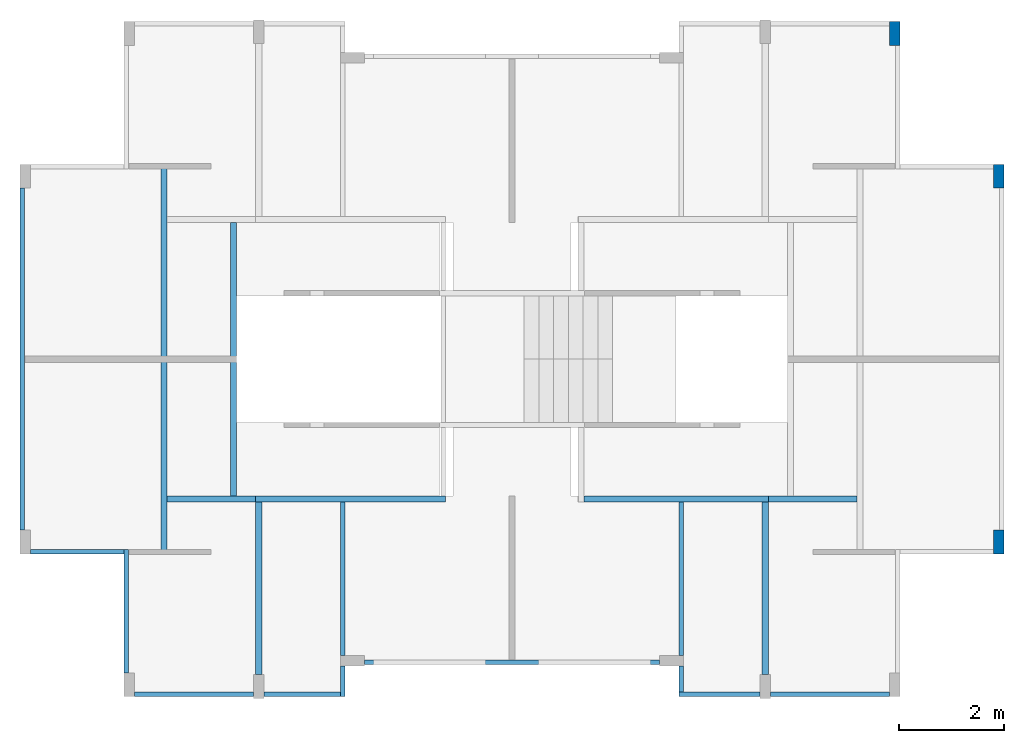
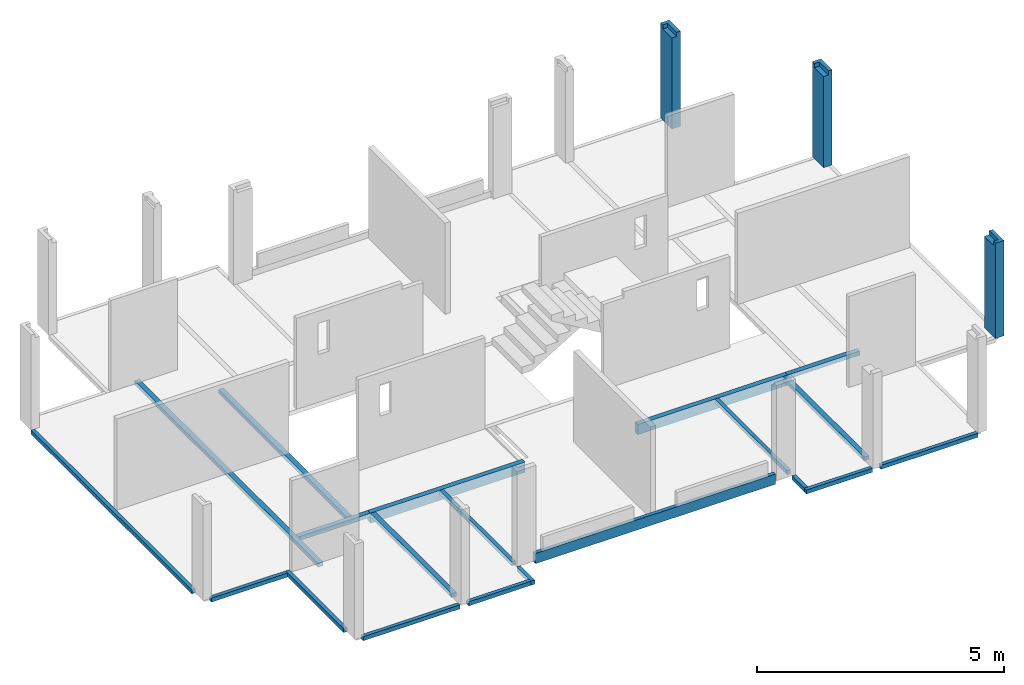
# One storey, part 1 of 6: 16 beams, 3 columns.
"""IFC4 building model written with IfcOpenShell, lengths in metres."""

import ifcopenshell
import ifcopenshell.guid

model = None  # the IFC model being written
_history = None  # IfcOwnerHistory: only IFC2X3 demands one
_inside = {}  # id of a spatial element -> (the spatial element, [elements in it])
_under = {}  # id of a project, library or spatial element -> (it, [spatial elements below it])
_declared = {}  # id of a project -> (the project, [libraries it declares])
_typed = {}  # id of a type object -> (the type object, [elements of that type])
_made_of = {}  # id of a material, layer set ... -> (it, [elements and type objects made of it])


def new_model(schema):
    """Start an empty IFC model of exactly this schema.

    Asked for "IFC4X3", IfcOpenShell would pick the latest addendum, in which some entities
    have other attributes; the version numbers below select the first issue.
    IFC2X3 requires an IfcOwnerHistory on every rooted entity: one is made here for all.
    """
    global model, _history
    if schema == "IFC4X3":
        model = ifcopenshell.file(schema_version=(4, 3, 0, 0))
    else:
        model = ifcopenshell.file(schema=schema)
    _inside.clear()
    _under.clear()
    _declared.clear()
    _typed.clear()
    _made_of.clear()
    _history = None
    if model.schema == "IFC2X3":
        org = make("IfcOrganization", Name="unknown")
        user = make(
            "IfcPersonAndOrganization",
            ThePerson=make("IfcPerson", FamilyName="unknown"),
            TheOrganization=org,
        )
        app = make(
            "IfcApplication",
            ApplicationDeveloper=org,
            Version="unknown",
            ApplicationFullName="unknown",
            ApplicationIdentifier="unknown",
        )
        _history = make(
            "IfcOwnerHistory",
            OwningUser=user,
            OwningApplication=app,
            ChangeAction="ADDED",
            CreationDate=0,
        )
    return model


def make(cls, **values):
    """One entity of the class cls with the attributes given. An attribute that is None is left unset."""
    return model.create_entity(
        cls, **{name: value for name, value in values.items() if value is not None}
    )


def entity(cls, *values):
    """Any entity or typed value of the class cls, its attributes in the order of the schema. None: left unset."""
    e = model.create_entity(cls)
    for i, value in enumerate(values):
        if value is not None:
            e[i] = value
    return e


def rooted(cls, **values):
    """An entity with a GlobalId (a new one), such as an element, a storey or a relation."""
    return make(cls, GlobalId=ifcopenshell.guid.new(), OwnerHistory=_history, **values)


def si_unit(unit_type, name, prefix=None):
    """IfcSIUnit, for example si_unit("LENGTHUNIT", "METRE", prefix="MILLI")."""
    return make("IfcSIUnit", UnitType=unit_type, Prefix=prefix, Name=name)


def converted_unit(unit_type, name, factor, base, dimensions=None, offset=None):
    """IfcConversionBasedUnit, such as the inch: factor (a typed value) times the base unit."""
    return make(
        "IfcConversionBasedUnit"
        if offset is None
        else "IfcConversionBasedUnitWithOffset",
        ConversionOffset=offset,
        Dimensions=None
        if dimensions is None
        else entity("IfcDimensionalExponents", *dimensions),
        UnitType=unit_type,
        Name=name,
        ConversionFactor=make(
            "IfcMeasureWithUnit", ValueComponent=factor, UnitComponent=base
        ),
    )


def derived_unit(unit_type, elements):
    """IfcDerivedUnit: a product of units, each with its exponent."""
    return make(
        "IfcDerivedUnit",
        Elements=[
            make("IfcDerivedUnitElement", Unit=unit, Exponent=power)
            for unit, power in elements
        ],
        UnitType=unit_type,
    )


def assignment(units):
    """IfcUnitAssignment: the units of a project."""
    return None if units is None else make("IfcUnitAssignment", Units=units)


def point(xyz):
    """IfcCartesianPoint."""
    return None if xyz is None else make("IfcCartesianPoint", Coordinates=xyz)


def direction(xyz):
    """IfcDirection."""
    return None if xyz is None else make("IfcDirection", DirectionRatios=xyz)


def frame(location, z_axis=None, x_axis=None):
    """IfcAxis2Placement3D, a coordinate frame: its origin and axes. An axis left out is left unset."""
    return make(
        "IfcAxis2Placement3D",
        Location=point(location),
        Axis=direction(z_axis),
        RefDirection=direction(x_axis),
    )


def origin():
    """The frame at (0, 0, 0) with its axes left unset."""
    return frame((0.0, 0.0, 0.0))


def place(relative_to, where):
    """IfcLocalPlacement: puts the frame where relative to a parent placement (None: the world)."""
    return make(
        "IfcLocalPlacement", PlacementRelTo=relative_to, RelativePlacement=where
    )


def context(
    kind, dimensions, precision=None, world=None, true_north=None, identifier=None
):
    """IfcGeometricRepresentationContext, for example the 3D "Model" context."""
    return make(
        "IfcGeometricRepresentationContext",
        ContextIdentifier=identifier,
        ContextType=kind,
        CoordinateSpaceDimension=dimensions,
        Precision=precision,
        WorldCoordinateSystem=world,
        TrueNorth=true_north,
    )


def subcontext(parent, identifier, kind, view, scale=None):
    """IfcGeometricRepresentationSubContext, for example "Body" below "Model"."""
    return make(
        "IfcGeometricRepresentationSubContext",
        ContextIdentifier=identifier,
        ContextType=kind,
        ParentContext=parent,
        TargetScale=scale,
        TargetView=view,
    )


def project(units=None, contexts=None):
    """IfcProject with its units and contexts."""
    return rooted(
        "IfcProject",
        Name="project",
        RepresentationContexts=contexts,
        UnitsInContext=assignment(units),
    )


def spatial(cls, under=None, at=None, **own):
    """A site, building, storey or space (cls), placed at a placement, below another one or the project."""
    s = rooted(cls, ObjectPlacement=at, **own)
    if under is not None:
        _under.setdefault(under.id(), (under, []))[1].append(s)
    return s


def point_list(points):
    """IfcCartesianPointList2D or 3D."""
    cls = (
        "IfcCartesianPointList2D" if len(points[0]) == 2 else "IfcCartesianPointList3D"
    )
    return make(cls, CoordList=points)


def indexed_curve(points, segments=None, self_intersect=None):
    """IfcIndexedPolyCurve: lines and arcs through numbered points (the first is 1)."""
    return make(
        "IfcIndexedPolyCurve",
        Points=point_list(points),
        Segments=segments,
        SelfIntersect=self_intersect,
    )


def outline(outer, holes=None, kind="AREA"):
    """IfcArbitraryClosedProfileDef: a profile drawn as a closed curve; with holes, ...WithVoids."""
    if holes is None:
        return make("IfcArbitraryClosedProfileDef", ProfileType=kind, OuterCurve=outer)
    return make(
        "IfcArbitraryProfileDefWithVoids",
        ProfileType=kind,
        OuterCurve=outer,
        InnerCurves=holes,
    )


def extrude(swept, where, along, depth):
    """IfcExtrudedAreaSolid: the profile swept, set in the frame where, extruded along a direction by depth."""
    return make(
        "IfcExtrudedAreaSolid",
        SweptArea=swept,
        Position=where,
        ExtrudedDirection=direction(along),
        Depth=depth,
    )


def polygons(points, faces, closed=None, point_numbers=None):
    """IfcPolygonalFaceSet: a face is its outer loop, then its inner loops; points numbered from 1."""
    made = []
    for loops in faces:
        if len(loops) == 1:
            made.append(make("IfcIndexedPolygonalFace", CoordIndex=loops[0]))
        else:
            made.append(
                make(
                    "IfcIndexedPolygonalFaceWithVoids",
                    CoordIndex=loops[0],
                    InnerCoordIndices=loops[1:],
                )
            )
    return make(
        "IfcPolygonalFaceSet",
        Coordinates=point_list(points),
        Closed=closed,
        Faces=made,
        PnIndex=point_numbers,
    )


def shape(context_of_items, identifier, shape_type, items):
    """IfcShapeRepresentation: the items that make up one representation, for example the "Body"."""
    return make(
        "IfcShapeRepresentation",
        ContextOfItems=context_of_items,
        RepresentationIdentifier=identifier,
        RepresentationType=shape_type,
        Items=items,
    )


def source(mapping_origin, context_of_items, identifier, shape_type, items):
    """IfcRepresentationMap: a shape defined once, which mapped items show again and again."""
    return make(
        "IfcRepresentationMap",
        MappingOrigin=mapping_origin,
        MappedRepresentation=shape(context_of_items, identifier, shape_type, items),
    )


def transform(
    local_origin,
    x_axis=None,
    y_axis=None,
    z_axis=None,
    scale=None,
    scale2=None,
    scale3=None,
    uniform=True,
):
    """IfcCartesianTransformationOperator3D, or its non-uniform kind. x_axis, y_axis, z_axis: its Axis1, 2, 3."""
    if uniform:
        return make(
            "IfcCartesianTransformationOperator3D",
            Axis1=direction(x_axis),
            Axis2=direction(y_axis),
            LocalOrigin=point(local_origin),
            Scale=scale,
            Axis3=direction(z_axis),
        )
    return make(
        "IfcCartesianTransformationOperator3DnonUniform",
        Axis1=direction(x_axis),
        Axis2=direction(y_axis),
        LocalOrigin=point(local_origin),
        Scale=scale,
        Axis3=direction(z_axis),
        Scale2=scale2,
        Scale3=scale3,
    )


def mapped(mapping_source, mapping_target):
    """IfcMappedItem: shows the shape of a source again, moved by a transform."""
    return make(
        "IfcMappedItem", MappingSource=mapping_source, MappingTarget=mapping_target
    )


def material(Name=None, Category=None):
    """IfcMaterial."""
    return make("IfcMaterial", Name=Name, Category=Category)


def made_of(thing, what):
    """Note that an element or type object is made of a material, layer set ...; save() writes the relation."""
    if what is not None:
        _made_of.setdefault(what.id(), (what, []))[1].append(thing)
    return thing


def type_object(cls, material=None, **own):
    """A type object (cls), such as IfcWallType, which elements share."""
    return made_of(rooted(cls, **own), material)


def type_shapes(of_type, sources):
    """Give a type object the sources (RepresentationMaps) that its elements show as mapped items."""
    of_type.RepresentationMaps = sources


def element(
    cls,
    number,
    at=None,
    inside=None,
    cuts=None,
    type_object=None,
    material=None,
    context=None,
    identifier="Body",
    shape_type=None,
    held_by="IfcProductDefinitionShape",
    body=None,
    shapes=None,
    **own,
):
    """One element of the class cls, such as IfcWall. Its Tag is "e" and its number.

    at: its placement. inside: the storey or other place that contains it. cuts: it is an
    opening in that element (IfcRelVoidsElement). A single representation is given by context,
    identifier, shape_type and body (its items); several are given by shapes. held_by: the class
    of the entity that holds the representations. save() writes the other relations.
    """
    e = rooted(cls, Tag="e%d" % number, ObjectPlacement=at, **own)
    if body is not None:
        shapes = [shape(context, identifier, shape_type, body)]
    if shapes is not None:
        e.Representation = make(held_by, Representations=shapes)
    if inside is not None:
        _inside.setdefault(inside.id(), (inside, []))[1].append(e)
    if cuts is not None:
        rooted(
            "IfcRelVoidsElement", RelatingBuildingElement=cuts, RelatedOpeningElement=e
        )
    if type_object is not None:
        _typed.setdefault(type_object.id(), (type_object, []))[1].append(e)
    return made_of(e, material)


def aggregate(whole, parts):
    """IfcRelAggregates: a whole, such as a stair, and the parts it consists of."""
    return rooted("IfcRelAggregates", RelatingObject=whole, RelatedObjects=parts)


def save(model, path):
    """Write the relations noted so far, then the file.

    IfcRelAggregates (storeys below a building ...), IfcRelContainedInSpatialStructure (elements
    in a storey), IfcRelDefinesByType, IfcRelAssociatesMaterial and IfcRelDeclares: one each for
    every whole, place, type object, material and project.
    """
    for whole, parts in _under.values():
        aggregate(whole, parts)
    for where, things in _inside.values():
        rooted(
            "IfcRelContainedInSpatialStructure",
            RelatedElements=things,
            RelatingStructure=where,
        )
    for kind, things in _typed.values():
        rooted("IfcRelDefinesByType", RelatedObjects=things, RelatingType=kind)
    for what, things in _made_of.values():
        rooted("IfcRelAssociatesMaterial", RelatedObjects=things, RelatingMaterial=what)
    for by, libraries in _declared.values():
        rooted("IfcRelDeclares", RelatingContext=by, RelatedDefinitions=libraries)
    model.write(path)


model = new_model("IFC4")

# Units and contexts
model_context = context("Model", 3, precision=1e-05, world=origin(), true_north=direction((6.123031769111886e-17, 1.0)))
body_context = subcontext(model_context, "Body", "Model", "MODEL_VIEW")
ifc_project = project(units=[si_unit("LENGTHUNIT", "METRE"), si_unit("AREAUNIT", "SQUARE_METRE"), si_unit("VOLUMEUNIT", "CUBIC_METRE"), converted_unit("PLANEANGLEUNIT", "DEGREE", entity("IfcRatioMeasure", 0.017453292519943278), si_unit("PLANEANGLEUNIT", "RADIAN"), dimensions=[0, 0, 0, 0, 0, 0, 0]), si_unit("MASSUNIT", "GRAM", prefix="KILO"), derived_unit("MASSDENSITYUNIT", [(si_unit("MASSUNIT", "GRAM", prefix="KILO"), 1), (si_unit("LENGTHUNIT", "METRE"), -3)]), derived_unit("IONCONCENTRATIONUNIT", [(si_unit("MASSUNIT", "GRAM", prefix="KILO"), 1), (si_unit("LENGTHUNIT", "METRE"), -3)]), derived_unit("MOMENTOFINERTIAUNIT", [(si_unit("LENGTHUNIT", "METRE"), 4)]), si_unit("TIMEUNIT", "SECOND"), si_unit("FREQUENCYUNIT", "HERTZ"), si_unit("THERMODYNAMICTEMPERATUREUNIT", "DEGREE_CELSIUS"), derived_unit("THERMALTRANSMITTANCEUNIT", [(si_unit("MASSUNIT", "GRAM", prefix="KILO"), 1), (si_unit("THERMODYNAMICTEMPERATUREUNIT", "KELVIN"), -1), (si_unit("TIMEUNIT", "SECOND"), -3)]), derived_unit("THERMALCONDUCTANCEUNIT", [(si_unit("MASSUNIT", "GRAM", prefix="KILO"), 1), (si_unit("THERMODYNAMICTEMPERATUREUNIT", "KELVIN"), -1), (si_unit("TIMEUNIT", "SECOND"), -3), (si_unit("LENGTHUNIT", "METRE"), 1)]), derived_unit("VOLUMETRICFLOWRATEUNIT", [(si_unit("LENGTHUNIT", "METRE"), 3), (si_unit("TIMEUNIT", "SECOND"), -1)]), derived_unit("MASSFLOWRATEUNIT", [(si_unit("MASSUNIT", "GRAM", prefix="KILO"), 1), (si_unit("TIMEUNIT", "SECOND"), -1)]), derived_unit("ROTATIONALFREQUENCYUNIT", [(si_unit("TIMEUNIT", "SECOND"), -1)]), si_unit("ELECTRICCURRENTUNIT", "AMPERE"), si_unit("ELECTRICVOLTAGEUNIT", "VOLT"), si_unit("POWERUNIT", "WATT"), si_unit("FORCEUNIT", "NEWTON", prefix="KILO"), si_unit("ILLUMINANCEUNIT", "LUX"), si_unit("LUMINOUSFLUXUNIT", "LUMEN"), si_unit("LUMINOUSINTENSITYUNIT", "CANDELA"), derived_unit("USERDEFINED", [(si_unit("MASSUNIT", "GRAM", prefix="KILO"), -1), (si_unit("LENGTHUNIT", "METRE"), -2), (si_unit("TIMEUNIT", "SECOND"), 3), (si_unit("LUMINOUSFLUXUNIT", "LUMEN"), 1)]), derived_unit("USERDEFINED", [(si_unit("MASSUNIT", "GRAM", prefix="KILO"), 1), (si_unit("TIMEUNIT", "SECOND"), -3), (si_unit("LENGTHUNIT", "METRE"), 3), (si_unit("ELECTRICCURRENTUNIT", "AMPERE"), -2)]), derived_unit("SOUNDPOWERUNIT", [(si_unit("MASSUNIT", "GRAM", prefix="KILO"), 1), (si_unit("TIMEUNIT", "SECOND"), -3), (si_unit("LENGTHUNIT", "METRE"), 2)]), derived_unit("SOUNDPRESSUREUNIT", [(si_unit("MASSUNIT", "GRAM", prefix="KILO"), 1), (si_unit("LENGTHUNIT", "METRE"), -1), (si_unit("TIMEUNIT", "SECOND"), -2)]), derived_unit("LINEARVELOCITYUNIT", [(si_unit("LENGTHUNIT", "METRE"), 1), (si_unit("TIMEUNIT", "SECOND"), -1)]), si_unit("PRESSUREUNIT", "PASCAL"), derived_unit("USERDEFINED", [(si_unit("MASSUNIT", "GRAM", prefix="KILO"), 1), (si_unit("LENGTHUNIT", "METRE"), -2), (si_unit("TIMEUNIT", "SECOND"), -2)]), derived_unit("LINEARFORCEUNIT", [(si_unit("MASSUNIT", "GRAM", prefix="KILO"), 1), (si_unit("TIMEUNIT", "SECOND"), -2)]), derived_unit("PLANARFORCEUNIT", [(si_unit("MASSUNIT", "GRAM", prefix="KILO"), 1), (si_unit("LENGTHUNIT", "METRE"), -1), (si_unit("TIMEUNIT", "SECOND"), -2)]), derived_unit("SPECIFICHEATCAPACITYUNIT", [(si_unit("THERMODYNAMICTEMPERATUREUNIT", "KELVIN"), -1), (si_unit("LENGTHUNIT", "METRE"), 2), (si_unit("TIMEUNIT", "SECOND"), -2)]), derived_unit("HEATINGVALUEUNIT", [(si_unit("LENGTHUNIT", "METRE"), 2), (si_unit("TIMEUNIT", "SECOND"), -2)]), derived_unit("VAPORPERMEABILITYUNIT", [(si_unit("LENGTHUNIT", "METRE"), -1), (si_unit("TIMEUNIT", "SECOND"), 1)]), derived_unit("DYNAMICVISCOSITYUNIT", [(si_unit("MASSUNIT", "GRAM", prefix="KILO"), 1), (si_unit("TIMEUNIT", "SECOND"), -1), (si_unit("LENGTHUNIT", "METRE"), -1)]), derived_unit("THERMALEXPANSIONCOEFFICIENTUNIT", [(si_unit("THERMODYNAMICTEMPERATUREUNIT", "KELVIN"), -1)]), derived_unit("MODULUSOFELASTICITYUNIT", [(si_unit("MASSUNIT", "GRAM", prefix="KILO"), 1), (si_unit("LENGTHUNIT", "METRE"), -1), (si_unit("TIMEUNIT", "SECOND"), -2)]), derived_unit("ISOTHERMALMOISTURECAPACITYUNIT", [(si_unit("LENGTHUNIT", "METRE"), 3), (si_unit("MASSUNIT", "GRAM", prefix="KILO"), -1)]), derived_unit("MOISTUREDIFFUSIVITYUNIT", [(si_unit("TIMEUNIT", "SECOND"), -1), (si_unit("LENGTHUNIT", "METRE"), 2)])], contexts=[model_context])

# Site, building, storey
site_placement = place(None, origin())
site = spatial("IfcSite", under=ifc_project, at=site_placement, Name="Default", CompositionType="ELEMENT")
building_placement = place(site_placement, origin())
building = spatial("IfcBuilding", under=site, at=building_placement, Name="Las nubes", CompositionType="ELEMENT")
storey_placement = place(building_placement, frame((0.0, 0.0, 9.400000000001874)))
storey = spatial("IfcBuildingStorey", under=building, at=storey_placement, Name="PISO 5", CompositionType="ELEMENT", Elevation=9.400000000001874)

# Columns
ifc_material_1 = material(Name="Concrete, Cast-in-Place gray", Category="Materials")
column_type_1 = type_object("IfcColumnType", Name="M_Concrete-Rectangular-Column:300 x 450mm", PredefinedType="COLUMN", material=ifc_material_1)
shared_shape_1 = source(origin(), body_context, "Body", "Tessellation", [
    polygons([(-2.1657342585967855e-15, 5.414335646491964e-16, 1.0828671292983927e-15), (-2.1657342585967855e-15, 0.45000000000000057, 1.0828671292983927e-15), (0.19999999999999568, 0.45000000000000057, 1.0828671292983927e-15), (0.19999999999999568, 5.414335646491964e-16, 1.0828671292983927e-15), (-2.1657342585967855e-15, 5.414335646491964e-16, 2.250000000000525), (-2.1657342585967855e-15, 0.36499999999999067, 2.250000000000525), (-2.1657342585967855e-15, 0.36499999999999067, 2.350000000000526), (-2.1657342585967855e-15, 0.45000000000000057, 2.350000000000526), (0.19999999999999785, 5.414335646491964e-16, 2.250000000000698), (0.19999999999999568, 5.414335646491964e-16, 2.350000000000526), (0.11499999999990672, 5.414335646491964e-16, 2.350000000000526), (0.11499999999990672, 5.414335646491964e-16, 2.250000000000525), (0.19999999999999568, 0.45000000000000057, 2.350000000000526), (0.11499999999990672, 0.36499999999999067, 2.350000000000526), (0.11499999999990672, 0.36499999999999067, 2.250000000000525)], [[[1, 2, 3, 4]], [[2, 1, 5, 6, 7, 8]], [[1, 4, 9, 10, 11, 12, 5]], [[4, 3, 13, 10, 9]], [[3, 2, 8, 13]], [[10, 13, 8, 7, 14, 11]], [[12, 15, 6, 5]], [[14, 15, 12, 11]], [[15, 14, 7, 6]]], closed=True),
])
type_shapes(column_type_1, [shared_shape_1])
column_1_placement = place(storey_placement, frame((18.472500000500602, -3.175000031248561, 0.0)))
element("IfcColumn", 1, at=column_1_placement, inside=storey, type_object=column_type_1, material=ifc_material_1, Name="M_Concrete-Rectangular-Column:300 x 450mm", ObjectType="M_Concrete-Rectangular-Column:300 x 450mm", PredefinedType="COLUMN", context=body_context, shape_type="MappedRepresentation", body=[
    mapped(shared_shape_1, transform((0.0, 0.0, 0.0), scale=1.0)),
])
column_type_2 = type_object("IfcColumnType", Name="M_Concrete-Rectangular-Column:300 x 450mm", PredefinedType="COLUMN", material=ifc_material_1)
shared_shape_2 = source(origin(), body_context, "Body", "Tessellation", [
    polygons([(0.0, 0.0, 1.0828671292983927e-15), (0.0, 0.45, 1.0828671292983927e-15), (0.2, 0.45, 1.0828671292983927e-15), (0.2, 0.0, 1.0828671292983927e-15), (0.0, 0.0, 2.250000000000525), (0.0, 0.3649999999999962, 2.250000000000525), (0.0, 0.36499999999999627, 2.350000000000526), (0.0, 0.45, 2.350000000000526), (0.2, 0.0, 2.250000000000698), (0.2, 0.0, 2.350000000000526), (0.11499999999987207, 0.0, 2.350000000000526), (0.11499999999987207, 0.0, 2.250000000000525), (0.2, 0.45, 2.350000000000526), (0.11499999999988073, 0.3649999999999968, 2.350000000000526), (0.11499999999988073, 0.3649999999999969, 2.250000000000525)], [[[1, 2, 3, 4]], [[2, 1, 5, 6, 7, 8]], [[1, 4, 9, 10, 11, 12, 5]], [[4, 3, 13, 10, 9]], [[3, 2, 8, 13]], [[10, 13, 8, 7, 14, 11]], [[15, 6, 5, 12]], [[15, 14, 7, 6]], [[14, 15, 12, 11]]], closed=True),
])
type_shapes(column_type_2, [shared_shape_2])
column_2_placement = place(storey_placement, frame((16.497500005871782, -0.46000002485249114, 0.0)))
element("IfcColumn", 2, at=column_2_placement, inside=storey, type_object=column_type_2, material=ifc_material_1, Name="M_Concrete-Rectangular-Column:300 x 450mm", ObjectType="M_Concrete-Rectangular-Column:300 x 450mm", PredefinedType="COLUMN", context=body_context, shape_type="MappedRepresentation", body=[
    mapped(shared_shape_2, transform((0.0, 0.0, 0.0), scale=1.0)),
])
column_type_3 = type_object("IfcColumnType", Name="M_Concrete-Rectangular-Column:300 x 450mm", PredefinedType="COLUMN", material=ifc_material_1)
shared_shape_3 = source(origin(), body_context, "Body", "Tessellation", [
    polygons([(2.1657342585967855e-15, 2.1657342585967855e-15, 1.0828671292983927e-15), (6.497202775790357e-15, 0.4500000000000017, 1.0828671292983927e-15), (0.20000000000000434, 0.45000000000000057, 1.0828671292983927e-15), (0.20000000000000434, 0.0, 1.0828671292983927e-15), (2.1657342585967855e-15, 2.1657342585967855e-15, 2.350000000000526), (2.1657342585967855e-15, 0.08500000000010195, 2.350000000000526), (2.1657342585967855e-15, 0.08500000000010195, 2.250000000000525), (6.497202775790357e-15, 0.4500000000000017, 2.250000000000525), (0.11499999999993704, 0.4500000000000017, 2.250000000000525), (0.11499999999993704, 0.4500000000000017, 2.350000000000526), (0.2000000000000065, 0.4499999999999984, 2.350000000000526), (0.2000000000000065, 0.45000000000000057, 2.250000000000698), (0.20000000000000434, 0.0, 2.350000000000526), (0.11499999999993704, 0.08500000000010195, 2.350000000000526), (0.11499999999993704, 0.08500000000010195, 2.250000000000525)], [[[1, 2, 3, 4]], [[2, 1, 5, 6, 7, 8]], [[3, 2, 8, 9, 10, 11, 12]], [[4, 3, 12, 11, 13]], [[1, 4, 13, 5]], [[13, 11, 10, 14, 6, 5]], [[7, 15, 9, 8]], [[14, 15, 7, 6]], [[15, 14, 10, 9]]], closed=True),
])
type_shapes(column_type_3, [shared_shape_3])
column_3_placement = place(storey_placement, frame((18.472500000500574, -10.125000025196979, 0.0)))
element("IfcColumn", 3, at=column_3_placement, inside=storey, type_object=column_type_3, material=ifc_material_1, Name="M_Concrete-Rectangular-Column:300 x 450mm", ObjectType="M_Concrete-Rectangular-Column:300 x 450mm", PredefinedType="COLUMN", context=body_context, shape_type="MappedRepresentation", body=[
    mapped(shared_shape_3, transform((0.0, 0.0, 0.0), scale=1.0)),
])

# Beams
ifc_material_2 = material(Name="Concrete, Cast In Situ", Category="Materials")
beam_type_1 = type_object("IfcBeamType", Name="M_Concrete-Rectangular Beam:(0.085x0.25)", PredefinedType="BEAM", material=ifc_material_2)
shared_shape_4 = source(origin(), body_context, "Body", "SweptSolid", [
    extrude(outline(indexed_curve([(-0.12500000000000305, -0.04249999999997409), (0.12499999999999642, -0.04250000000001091), (0.12500000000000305, 0.04249999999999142), (-0.12499999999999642, 0.042500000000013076), (-0.12500000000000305, -0.04249999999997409)], self_intersect=False)), frame((6.517499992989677, -12.18250002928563, 9.425000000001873), z_axis=(1.0, 0.0, 0.0), x_axis=(0.0, 0.0, -1.0)), (0.0, 0.0, 1.0), 5.6100000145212),
])
type_shapes(beam_type_1, [shared_shape_4])
beam_1_placement = place(storey_placement, frame((0.0, 0.0, -9.400000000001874)))
element("IfcBeam", 4, at=beam_1_placement, inside=storey, type_object=beam_type_1, material=ifc_material_2, Name="M_Concrete-Rectangular Beam:(0.085x0.25)", ObjectType="M_Concrete-Rectangular Beam:(0.085x0.25)", PredefinedType="BEAM", context=body_context, shape_type="MappedRepresentation", body=[
    mapped(shared_shape_4, transform((0.0, 0.0, 0.0), scale=1.0)),
])
beam_type_2 = type_object("IfcBeamType", Name="M_Concrete-Rectangular Beam:(0.085x0.10)", PredefinedType="BEAM", material=ifc_material_2)
shared_shape_5 = source(origin(), body_context, "Body", "SweptSolid", [
    extrude(outline(indexed_curve([(-0.04250000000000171, -0.050000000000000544), (0.04250000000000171, -0.050000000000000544), (0.04250000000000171, 0.04999999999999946), (-0.04250000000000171, 0.04999999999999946), (-0.04250000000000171, -0.050000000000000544)], self_intersect=False)), frame((1.9899999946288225, -12.390000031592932, 9.350000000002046), z_axis=(0.0, 1.0, 0.0), x_axis=(-1.0, 0.0, 0.0)), (0.0, 0.0, 1.0), 2.3500051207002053),
])
type_shapes(beam_type_2, [shared_shape_5])
beam_2_placement = place(storey_placement, frame((0.0, 0.0, -9.400000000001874)))
element("IfcBeam", 5, at=beam_2_placement, inside=storey, type_object=beam_type_2, material=ifc_material_2, Name="M_Concrete-Rectangular Beam:(0.085x0.10)", ObjectType="M_Concrete-Rectangular Beam:(0.085x0.10)", PredefinedType="BEAM", context=body_context, shape_type="MappedRepresentation", body=[
    mapped(shared_shape_5, transform((0.0, 0.0, 0.0), scale=1.0)),
])
beam_type_3 = type_object("IfcBeamType", Name="M_Concrete-Rectangular Beam:(0.085x0.10)", PredefinedType="BEAM", material=ifc_material_2)
shared_shape_6 = source(origin(), body_context, "Body", "SweptSolid", [
    extrude(outline(indexed_curve([(-0.050000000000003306, -0.04249999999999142), (0.04999999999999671, -0.042500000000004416), (0.05000000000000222, 0.04249999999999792), (-0.04999999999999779, 0.042500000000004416), (-0.050000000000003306, -0.04249999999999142)], self_intersect=False)), frame((1.9474999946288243, -10.082494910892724, 9.350000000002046), z_axis=(-1.0, 0.0, 0.0), x_axis=(0.0, 0.0, -1.0)), (0.0, 0.0, 1.0), 1.7749999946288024),
])
type_shapes(beam_type_3, [shared_shape_6])
beam_3_placement = place(storey_placement, frame((0.0, 0.0, -9.400000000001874)))
element("IfcBeam", 6, at=beam_3_placement, inside=storey, type_object=beam_type_3, material=ifc_material_2, Name="M_Concrete-Rectangular Beam:(0.085x0.10)", ObjectType="M_Concrete-Rectangular Beam:(0.085x0.10)", PredefinedType="BEAM", context=body_context, shape_type="MappedRepresentation", body=[
    mapped(shared_shape_6, transform((0.0, 0.0, 0.0), scale=1.0)),
])
beam_type_4 = type_object("IfcBeamType", Name="M_Concrete-Rectangular Beam:(0.085x0.10)", PredefinedType="BEAM", material=ifc_material_2)
shared_shape_7 = source(origin(), body_context, "Body", "SweptSolid", [
    extrude(outline(indexed_curve([(-0.04250000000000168, -0.050000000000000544), (0.04250000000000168, -0.050000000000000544), (0.0425000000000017, 0.04999999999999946), (-0.04250000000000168, 0.04999999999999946), (-0.04250000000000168, -0.050000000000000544)], self_intersect=False)), frame((0.01500000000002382, -9.674994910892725, 9.350000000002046), z_axis=(0.0, 1.0, 0.0), x_axis=(-1.0, 0.0, 0.0)), (0.0, 0.0, 1.0), 6.499994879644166),
])
type_shapes(beam_type_4, [shared_shape_7])
beam_4_placement = place(storey_placement, frame((0.0, 0.0, -9.400000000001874)))
element("IfcBeam", 7, at=beam_4_placement, inside=storey, type_object=beam_type_4, material=ifc_material_2, Name="M_Concrete-Rectangular Beam:(0.085x0.10)", ObjectType="M_Concrete-Rectangular Beam:(0.085x0.10)", PredefinedType="BEAM", context=body_context, shape_type="MappedRepresentation", body=[
    mapped(shared_shape_7, transform((0.0, 0.0, 0.0), scale=1.0)),
])
beam_type_5 = type_object("IfcBeamType", Name="M_Concrete-Rectangular Beam:(0.085x0.10)", PredefinedType="BEAM", material=ifc_material_2)
shared_shape_8 = source(origin(), body_context, "Body", "SweptSolid", [
    extrude(outline(indexed_curve([(-0.050000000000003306, -0.04249999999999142), (0.04999999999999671, -0.042500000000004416), (0.05000000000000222, 0.04249999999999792), (-0.04999999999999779, 0.042500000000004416), (-0.050000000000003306, -0.04249999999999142)], self_intersect=False)), frame((14.235000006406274, -12.797498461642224, 9.350000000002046), z_axis=(1.0, 0.0, 0.0), x_axis=(0.0, 0.0, -1.0)), (0.0, 0.0, 1.0), 2.2624999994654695),
    extrude(outline(indexed_curve([(-0.05000000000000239, -0.04249999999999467), (0.049999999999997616, -0.042500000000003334), (0.05000000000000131, 0.042499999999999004), (-0.0499999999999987, 0.042500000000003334), (-0.05000000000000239, -0.04249999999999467)], self_intersect=False)), frame((12.49250000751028, -12.797498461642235, 9.350000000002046), z_axis=(1.0, 0.0, 0.0), x_axis=(0.0, 0.0, -1.0)), (0.0, 0.0, 1.0), 1.5424999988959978),
])
type_shapes(beam_type_5, [shared_shape_8])
beam_5_placement = place(storey_placement, frame((0.0, 0.0, -9.400000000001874)))
element("IfcBeam", 8, at=beam_5_placement, inside=storey, type_object=beam_type_5, material=ifc_material_2, Name="M_Concrete-Rectangular Beam:(0.085x0.10)", ObjectType="M_Concrete-Rectangular Beam:(0.085x0.10)", PredefinedType="BEAM", context=body_context, shape_type="MappedRepresentation", body=[
    mapped(shared_shape_8, transform((0.0, 0.0, 0.0), scale=1.0)),
])
beam_type_6 = type_object("IfcBeamType", Name="M_Concrete-Rectangular Beam:(0.115x0.25)", PredefinedType="BEAM", material=ifc_material_2)
shared_shape_9 = source(origin(), body_context, "Body", "SweptSolid", [
    extrude(outline(indexed_curve([(-0.12500000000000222, -0.05749999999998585), (0.12499999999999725, -0.057500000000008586), (0.12500000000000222, 0.05749999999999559), (-0.12499999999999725, 0.05750000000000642), (-0.12500000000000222, -0.05749999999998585)], self_intersect=False)), frame((8.062500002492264, -9.082500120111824, 9.275000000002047), z_axis=(-1.0, 0.0, 0.0), x_axis=(0.0, 0.0, -1.0)), (0.0, 0.0, 1.0), 3.610000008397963),
])
type_shapes(beam_type_6, [shared_shape_9])
beam_6_placement = place(storey_placement, frame((0.0, 0.0, -9.400000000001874)))
element("IfcBeam", 9, at=beam_6_placement, inside=storey, type_object=beam_type_6, material=ifc_material_2, Name="M_Concrete-Rectangular Beam:(0.115x0.25)", ObjectType="M_Concrete-Rectangular Beam:(0.115x0.25)", PredefinedType="BEAM", context=body_context, shape_type="MappedRepresentation", body=[
    mapped(shared_shape_9, transform((0.0, 0.0, 0.0), scale=1.0)),
])
beam_type_7 = type_object("IfcBeamType", Name="M_Concrete-Rectangular Beam:(0.115x0.25)", PredefinedType="BEAM", material=ifc_material_2)
shared_shape_10 = source(origin(), body_context, "Body", "SweptSolid", [
    extrude(outline(indexed_curve([(-0.12500000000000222, -0.057499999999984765), (0.12499999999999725, -0.05750000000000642), (0.12500000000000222, 0.05749999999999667), (-0.12499999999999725, 0.0575000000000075), (-0.12500000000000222, -0.057499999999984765)], self_intersect=False)), frame((10.692499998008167, -9.082500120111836, 9.275000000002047), z_axis=(1.0, 0.0, 0.0), x_axis=(0.0, 0.0, -1.0)), (0.0, 0.0, 1.0), 3.5000000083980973),
])
type_shapes(beam_type_7, [shared_shape_10])
beam_7_placement = place(storey_placement, frame((0.0, 0.0, -9.400000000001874)))
element("IfcBeam", 10, at=beam_7_placement, inside=storey, type_object=beam_type_7, material=ifc_material_2, Name="M_Concrete-Rectangular Beam:(0.115x0.25)", ObjectType="M_Concrete-Rectangular Beam:(0.115x0.25)", PredefinedType="BEAM", context=body_context, shape_type="MappedRepresentation", body=[
    mapped(shared_shape_10, transform((0.0, 0.0, 0.0), scale=1.0)),
])
beam_type_8 = type_object("IfcBeamType", Name="M_Concrete-Rectangular Beam:(0.115x0.10)", PredefinedType="BEAM", material=ifc_material_2)
shared_shape_11 = source(origin(), body_context, "Body", "SweptSolid", [
    extrude(outline(indexed_curve([(-0.05750000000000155, -0.050000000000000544), (0.05750000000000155, -0.050000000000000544), (0.05750000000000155, 0.04999999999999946), (-0.05750000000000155, 0.04999999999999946), (-0.05750000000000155, -0.050000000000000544)], self_intersect=False)), frame((2.710001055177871, -10.140000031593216, 9.350000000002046), z_axis=(0.0, 1.0, 0.0), x_axis=(-1.0, 0.0, 0.0)), (0.0, 0.0, 1.0), 7.430000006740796),
])
type_shapes(beam_type_8, [shared_shape_11])
beam_8_placement = place(storey_placement, frame((0.0, 0.0, -9.400000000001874)))
element("IfcBeam", 11, at=beam_8_placement, inside=storey, type_object=beam_type_8, material=ifc_material_2, Name="M_Concrete-Rectangular Beam:(0.115x0.10)", ObjectType="M_Concrete-Rectangular Beam:(0.115x0.10)", PredefinedType="BEAM", context=body_context, shape_type="MappedRepresentation", body=[
    mapped(shared_shape_11, transform((0.0, 0.0, 0.0), scale=1.0)),
])
beam_type_9 = type_object("IfcBeamType", Name="M_Concrete-Rectangular Beam:(0.115x0.10)", PredefinedType="BEAM", material=ifc_material_2)
shared_shape_12 = source(origin(), body_context, "Body", "SweptSolid", [
    extrude(outline(indexed_curve([(-0.05750000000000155, -0.050000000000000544), (0.05750000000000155, -0.050000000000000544), (0.05750000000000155, 0.04999999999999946), (-0.05750000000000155, 0.04999999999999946), (-0.05750000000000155, -0.050000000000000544)], self_intersect=False)), frame((4.509999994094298, -12.42000003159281, 9.350000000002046), z_axis=(0.0, 1.0, 0.0), x_axis=(-1.0, 0.0, 0.0)), (0.0, 0.0, 1.0), 3.2799999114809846),
])
type_shapes(beam_type_9, [shared_shape_12])
beam_9_placement = place(storey_placement, frame((0.0, 0.0, -9.400000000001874)))
element("IfcBeam", 12, at=beam_9_placement, inside=storey, type_object=beam_type_9, material=ifc_material_2, Name="M_Concrete-Rectangular Beam:(0.115x0.10)", ObjectType="M_Concrete-Rectangular Beam:(0.115x0.10)", PredefinedType="BEAM", context=body_context, shape_type="MappedRepresentation", body=[
    mapped(shared_shape_12, transform((0.0, 0.0, 0.0), scale=1.0)),
])
beam_type_10 = type_object("IfcBeamType", Name="M_Concrete-Rectangular Beam:(0.115x0.10)", PredefinedType="BEAM", material=ifc_material_2)
shared_shape_13 = source(origin(), body_context, "Body", "SweptSolid", [
    extrude(outline(indexed_curve([(-0.05750000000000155, -0.050000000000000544), (0.05750000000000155, -0.050000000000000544), (0.05750000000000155, 0.04999999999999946), (-0.05750000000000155, 0.04999999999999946), (-0.05750000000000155, -0.050000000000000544)], self_intersect=False)), frame((4.029999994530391, -9.025000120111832, 9.350000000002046), z_axis=(0.0, 1.0, 0.0), x_axis=(-1.0, 0.0, 0.0)), (0.0, 0.0, 1.0), 5.200000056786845),
])
type_shapes(beam_type_10, [shared_shape_13])
beam_10_placement = place(storey_placement, frame((0.0, 0.0, -9.400000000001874)))
element("IfcBeam", 13, at=beam_10_placement, inside=storey, type_object=beam_type_10, material=ifc_material_2, Name="M_Concrete-Rectangular Beam:(0.115x0.10)", ObjectType="M_Concrete-Rectangular Beam:(0.115x0.10)", PredefinedType="BEAM", context=body_context, shape_type="MappedRepresentation", body=[
    mapped(shared_shape_13, transform((0.0, 0.0, 0.0), scale=1.0)),
])
beam_type_11 = type_object("IfcBeamType", Name="M_Concrete-Rectangular Beam:(0.115x0.10)", PredefinedType="BEAM", material=ifc_material_2)
shared_shape_14 = source(origin(), body_context, "Body", "SweptSolid", [
    extrude(outline(indexed_curve([(-0.05000000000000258, -0.057499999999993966), (0.049999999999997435, -0.05750000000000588), (0.05000000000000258, 0.0574999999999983), (-0.049999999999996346, 0.057500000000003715), (-0.05000000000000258, -0.057499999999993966)], self_intersect=False)), frame((4.4524999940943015, -9.082499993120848, 9.350000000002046), z_axis=(-1.0, 0.0, 0.0), x_axis=(0.0, 0.0, -1.0)), (0.0, 0.0, 1.0), 1.6849989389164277),
])
type_shapes(beam_type_11, [shared_shape_14])
beam_11_placement = place(storey_placement, frame((0.0, 0.0, -9.400000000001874)))
element("IfcBeam", 14, at=beam_11_placement, inside=storey, type_object=beam_type_11, material=ifc_material_2, Name="M_Concrete-Rectangular Beam:(0.115x0.10)", ObjectType="M_Concrete-Rectangular Beam:(0.115x0.10)", PredefinedType="BEAM", context=body_context, shape_type="MappedRepresentation", body=[
    mapped(shared_shape_14, transform((0.0, 0.0, 0.0), scale=1.0)),
])
beam_type_12 = type_object("IfcBeamType", Name="M_Concrete-Rectangular Beam:(0.115x0.10)", PredefinedType="BEAM", material=ifc_material_2)
shared_shape_15 = source(origin(), body_context, "Body", "SweptSolid", [
    extrude(outline(indexed_curve([(-0.05000000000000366, -0.057499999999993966), (0.049999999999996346, -0.0575000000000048), (0.05000000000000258, 0.0574999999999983), (-0.049999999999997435, 0.057500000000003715), (-0.05000000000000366, -0.057499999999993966)], self_intersect=False)), frame((14.192500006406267, -9.082499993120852, 9.350000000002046), z_axis=(1.0, 0.0, 0.0), x_axis=(0.0, 0.0, -1.0)), (0.0, 0.0, 1.0), 1.6849989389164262),
])
type_shapes(beam_type_12, [shared_shape_15])
beam_12_placement = place(storey_placement, frame((0.0, 0.0, -9.400000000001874)))
element("IfcBeam", 15, at=beam_12_placement, inside=storey, type_object=beam_type_12, material=ifc_material_2, Name="M_Concrete-Rectangular Beam:(0.115x0.10)", ObjectType="M_Concrete-Rectangular Beam:(0.115x0.10)", PredefinedType="BEAM", context=body_context, shape_type="MappedRepresentation", body=[
    mapped(shared_shape_15, transform((0.0, 0.0, 0.0), scale=1.0)),
])
beam_type_13 = type_object("IfcBeamType", Name="M_Concrete-Rectangular Beam:(0.085x0.10)", PredefinedType="BEAM", material=ifc_material_2)
shared_shape_16 = source(origin(), body_context, "Body", "SweptSolid", [
    extrude(outline(indexed_curve([(-0.04250000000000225, -0.050000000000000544), (0.04250000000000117, -0.050000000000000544), (0.04250000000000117, 0.04999999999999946), (-0.04250000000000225, 0.04999999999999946), (-0.04250000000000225, -0.050000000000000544)], self_intersect=False)), frame((6.1099999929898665, -12.055000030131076, 9.350000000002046), z_axis=(0.0, 1.0, 0.0), x_axis=(-1.0, 0.0, 0.0)), (0.0, 0.0, 1.0), 2.9149999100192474),
    extrude(outline(indexed_curve([(-0.04250000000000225, -0.050000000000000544), (0.04250000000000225, -0.050000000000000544), (0.04250000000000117, 0.04999999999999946), (-0.04250000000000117, 0.04999999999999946), (-0.04250000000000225, -0.050000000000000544)], self_intersect=False)), frame((6.109999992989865, -12.840000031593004, 9.350000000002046), z_axis=(0.0, 1.0, 0.0), x_axis=(-1.0, 0.0, 0.0)), (0.0, 0.0, 1.0), 0.585000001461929),
])
type_shapes(beam_type_13, [shared_shape_16])
beam_13_placement = place(storey_placement, frame((0.0, 0.0, -9.400000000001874)))
element("IfcBeam", 16, at=beam_13_placement, inside=storey, type_object=beam_type_13, material=ifc_material_2, Name="M_Concrete-Rectangular Beam:(0.085x0.10)", ObjectType="M_Concrete-Rectangular Beam:(0.085x0.10)", PredefinedType="BEAM", context=body_context, shape_type="MappedRepresentation", body=[
    mapped(shared_shape_16, transform((0.0, 0.0, 0.0), scale=1.0)),
])
beam_type_14 = type_object("IfcBeamType", Name="M_Concrete-Rectangular Beam:(0.085x0.10)", PredefinedType="BEAM", material=ifc_material_2)
shared_shape_17 = source(origin(), body_context, "Body", "SweptSolid", [
    extrude(outline(indexed_curve([(-0.04250000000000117, -0.050000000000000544), (0.042499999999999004, -0.04999999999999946), (0.04250000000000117, 0.04999999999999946), (-0.042500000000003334, 0.04999999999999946), (-0.04250000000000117, -0.050000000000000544)], self_intersect=False)), frame((12.535000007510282, -12.755000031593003, 9.350000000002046), z_axis=(0.0, 1.0, 0.0), x_axis=(-1.0, 0.0, 0.0)), (0.0, 0.0, 1.0), 0.5000000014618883),
    extrude(outline(indexed_curve([(-0.042499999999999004, -0.050000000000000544), (0.042500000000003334, -0.04999999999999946), (0.042500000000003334, 0.04999999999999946), (-0.042499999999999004, 0.04999999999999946), (-0.042499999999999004, -0.050000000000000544)], self_intersect=False)), frame((12.535000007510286, -12.055000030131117, 9.350000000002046), z_axis=(0.0, 1.0, 0.0), x_axis=(-1.0, 0.0, 0.0)), (0.0, 0.0, 1.0), 2.914999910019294),
])
type_shapes(beam_type_14, [shared_shape_17])
beam_14_placement = place(storey_placement, frame((0.0, 0.0, -9.400000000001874)))
element("IfcBeam", 17, at=beam_14_placement, inside=storey, type_object=beam_type_14, material=ifc_material_2, Name="M_Concrete-Rectangular Beam:(0.085x0.10)", ObjectType="M_Concrete-Rectangular Beam:(0.085x0.10)", PredefinedType="BEAM", context=body_context, shape_type="MappedRepresentation", body=[
    mapped(shared_shape_17, transform((0.0, 0.0, 0.0), scale=1.0)),
])
beam_type_15 = type_object("IfcBeamType", Name="M_Concrete-Rectangular Beam:(0.115x0.10)", PredefinedType="BEAM", material=ifc_material_2)
shared_shape_18 = source(origin(), body_context, "Body", "SweptSolid", [
    extrude(outline(indexed_curve([(-0.057500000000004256, -0.050000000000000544), (0.05750000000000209, -0.050000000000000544), (0.05750000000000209, 0.04999999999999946), (-0.05750000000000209, 0.04999999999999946), (-0.057500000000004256, -0.050000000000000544)], self_intersect=False)), frame((14.135000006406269, -12.420000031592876, 9.350000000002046), z_axis=(0.0, 1.0, 0.0), x_axis=(-1.0, 0.0, 0.0)), (0.0, 0.0, 1.0), 3.2799999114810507),
])
type_shapes(beam_type_15, [shared_shape_18])
beam_15_placement = place(storey_placement, frame((0.0, 0.0, -9.400000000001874)))
element("IfcBeam", 18, at=beam_15_placement, inside=storey, type_object=beam_type_15, material=ifc_material_2, Name="M_Concrete-Rectangular Beam:(0.115x0.10)", ObjectType="M_Concrete-Rectangular Beam:(0.115x0.10)", PredefinedType="BEAM", context=body_context, shape_type="MappedRepresentation", body=[
    mapped(shared_shape_18, transform((0.0, 0.0, 0.0), scale=1.0)),
])
beam_type_16 = type_object("IfcBeamType", Name="M_Concrete-Rectangular Beam:(0.085x0.10)", PredefinedType="BEAM", material=ifc_material_2)
shared_shape_19 = source(origin(), body_context, "Body", "SweptSolid", [
    extrude(outline(indexed_curve([(-0.050000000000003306, -0.04249999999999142), (0.04999999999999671, -0.042500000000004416), (0.05000000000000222, 0.04249999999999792), (-0.04999999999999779, 0.042500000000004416), (-0.050000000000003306, -0.04249999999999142)], self_intersect=False)), frame((4.4099999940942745, -12.797500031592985, 9.350000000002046), z_axis=(-1.0, 0.0, 0.0), x_axis=(0.0, 0.0, -1.0)), (0.0, 0.0, 1.0), 2.262499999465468),
    extrude(outline(indexed_curve([(-0.05000000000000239, -0.04249999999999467), (0.049999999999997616, -0.042500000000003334), (0.05000000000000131, 0.042499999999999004), (-0.0499999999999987, 0.042500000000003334), (-0.05000000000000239, -0.04249999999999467)], self_intersect=False)), frame((6.06749999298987, -12.797500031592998, 9.350000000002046), z_axis=(-1.0, 0.0, 0.0), x_axis=(0.0, 0.0, -1.0)), (0.0, 0.0, 1.0), 1.4574999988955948),
])
type_shapes(beam_type_16, [shared_shape_19])
beam_16_placement = place(storey_placement, frame((0.0, 0.0, -9.400000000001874)))
element("IfcBeam", 19, at=beam_16_placement, inside=storey, type_object=beam_type_16, material=ifc_material_2, Name="M_Concrete-Rectangular Beam:(0.085x0.10)", ObjectType="M_Concrete-Rectangular Beam:(0.085x0.10)", PredefinedType="BEAM", context=body_context, shape_type="MappedRepresentation", body=[
    mapped(shared_shape_19, transform((0.0, 0.0, 0.0), scale=1.0)),
])

save(model, "model.ifc")
